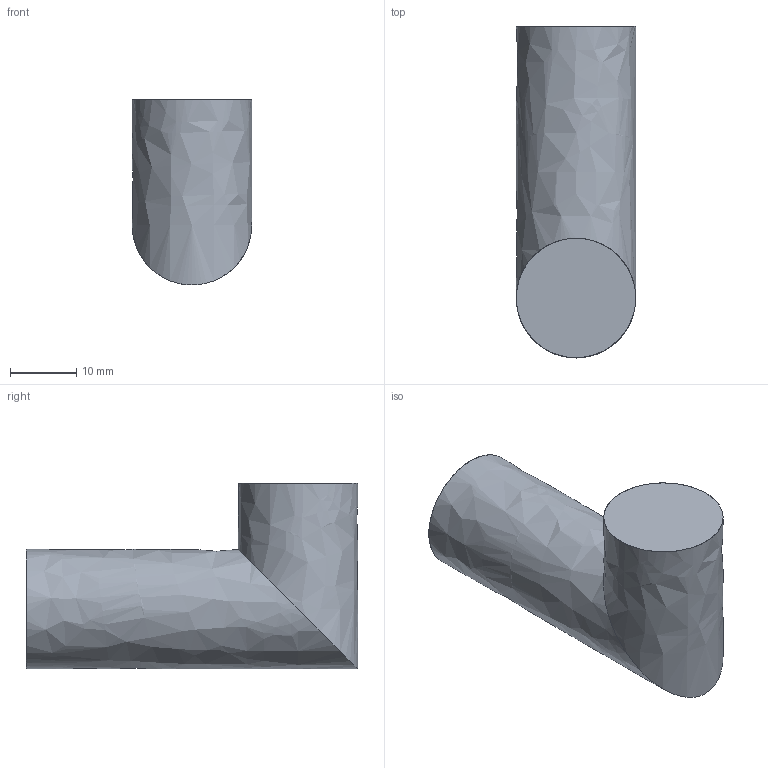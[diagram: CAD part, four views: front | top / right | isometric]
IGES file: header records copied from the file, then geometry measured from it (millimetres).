
Global section: file name: /Users/f/Desktop/I'/AM241.igs; native system: Rhinoceros ( Jul 22 2010 ); preprocessor: Trout Lake IGES 012 Jul 22 2010; date: 100727.131713; units: millimetre
Bounding box: 18 x 50 x 28 mm (x, y, z)
Surface area: 3906.8 mm2 (no closed solid volume)
Topology: 0 solids, 0 shells, 4 faces, 96 edges, 95 vertices
Faces by surface type: bspline 4
